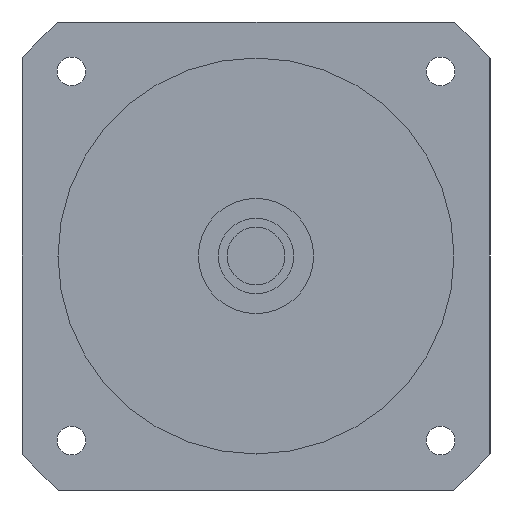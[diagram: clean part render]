
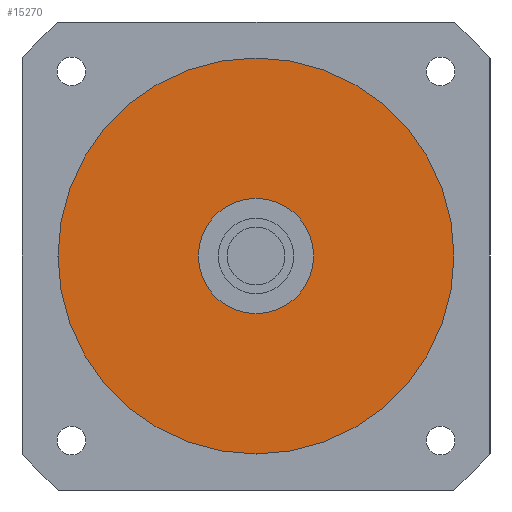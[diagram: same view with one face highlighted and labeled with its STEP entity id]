
A CAD part, left-side view. The second image highlights one B-rep face of the part: STEP entity #15270.
In plain terms, the highlighted planar face has unit normal (-1, 0, 0) as drawn and (0, 0, -1) by its records, which use the part's own axes.
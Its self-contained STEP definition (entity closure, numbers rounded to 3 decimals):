
#14690=CARTESIAN_POINT('',(55.,0.,-54.2));
#14700=VERTEX_POINT('',#14690);
#14790=CARTESIAN_POINT('',(-55.,0.,-54.2));
#14800=VERTEX_POINT('',#14790);
#14830=CARTESIAN_POINT('',(0.,0.,
-54.2));
#14840=DIRECTION('',(0.,0.,1.));
#14850=DIRECTION('',(0.,1.,0.));
#14860=AXIS2_PLACEMENT_3D('',#14830,#14840,#14850);
#14870=CIRCLE('',#14860,55.);
#14880=CARTESIAN_POINT('',(0.,55.,-54.2));
#14890=VERTEX_POINT('',#14880);
#14900=EDGE_CURVE('',#14890,#14800,#14870,.T.);
#14920=EDGE_CURVE('',#14700,#14890,#14870,.T.);
#14970=CARTESIAN_POINT('',(0.,0.,
-54.2));
#14980=DIRECTION('',(0.,0.,1.));
#14990=DIRECTION('',(-1.,0.,0.));
#15000=AXIS2_PLACEMENT_3D('',#14970,#14980,#14990);
#15010=PLANE('',#15000);
#15020=ORIENTED_EDGE('',*,*,#14900,.F.);
#15030=EDGE_CURVE('',#14800,#14700,#14870,.T.);
#15040=ORIENTED_EDGE('',*,*,#15030,.F.);
#15050=ORIENTED_EDGE('',*,*,#14920,.F.);
#15060=EDGE_LOOP('',(#15050,#15040,#15020));
#15070=FACE_OUTER_BOUND('',#15060,.T.);
#15080=CARTESIAN_POINT('',(0.,0.,
-54.2));
#15090=DIRECTION('',(0.,0.,1.));
#15100=DIRECTION('',(0.,1.,0.));
#15110=AXIS2_PLACEMENT_3D('',#15080,#15090,#15100);
#15120=CIRCLE('',#15110,16.);
#15130=CARTESIAN_POINT('',(-16.,0.,-54.2));
#15140=VERTEX_POINT('',#15130);
#15150=CARTESIAN_POINT('',(16.,0.,-54.2));
#15160=VERTEX_POINT('',#15150);
#15170=EDGE_CURVE('',#15140,#15160,#15120,.T.);
#15180=ORIENTED_EDGE('',*,*,#15170,.T.);
#15190=CARTESIAN_POINT('',(0.,16.,-54.2));
#15200=VERTEX_POINT('',#15190);
#15210=EDGE_CURVE('',#15200,#15140,#15120,.T.);
#15220=ORIENTED_EDGE('',*,*,#15210,.T.);
#15230=EDGE_CURVE('',#15160,#15200,#15120,.T.);
#15240=ORIENTED_EDGE('',*,*,#15230,.T.);
#15250=EDGE_LOOP('',(#15240,#15220,#15180));
#15260=FACE_BOUND('',#15250,.T.);
#15270=ADVANCED_FACE('',(#15070,#15260),#15010,.F.);
